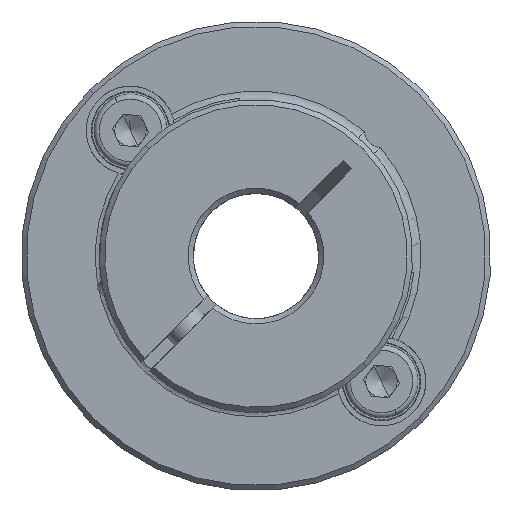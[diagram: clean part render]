
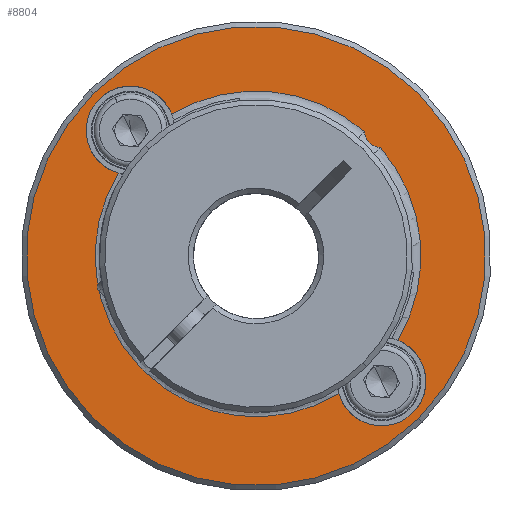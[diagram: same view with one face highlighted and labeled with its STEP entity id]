
A CAD part, front view. The second image highlights one B-rep face of the part: STEP entity #8804.
In plain terms, the highlighted planar face has unit normal (0, -1, 0).
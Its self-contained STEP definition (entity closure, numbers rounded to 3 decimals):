
#15 = EDGE_CURVE ( 'NONE', #9330, #3564, #2538, .T. ) ;
#17 = CARTESIAN_POINT ( 'NONE',  ( -13.688, 21.413, 33.299 ) ) ;
#128 = DIRECTION ( 'NONE',  ( 0., -1., 0. ) ) ;
#308 = VERTEX_POINT ( 'NONE', #4905 ) ;
#322 = AXIS2_PLACEMENT_3D ( 'NONE', #3807, #12410, #928 ) ;
#388 = CARTESIAN_POINT ( 'NONE',  ( -17.557, 21.413, 58.94 ) ) ;
#390 = EDGE_LOOP ( 'NONE', ( #4456, #3841 ) ) ;
#687 = CARTESIAN_POINT ( 'NONE',  ( -2.531, 21.413, 43.914 ) ) ;
#764 = VERTEX_POINT ( 'NONE', #11655 ) ;
#774 = DIRECTION ( 'NONE',  ( -0.707, 0., 0.707 ) ) ;
#845 = EDGE_CURVE ( 'NONE', #9582, #8864, #4003, .T. ) ;
#928 = DIRECTION ( 'NONE',  ( 0.145, 0., -0.989 ) ) ;
#1038 = ORIENTED_EDGE ( 'NONE', *, *, #2579, .T. ) ;
#1323 = DIRECTION ( 'NONE',  ( 0., 1., 0. ) ) ;
#1386 = DIRECTION ( 'NONE',  ( -0.707, 0., 0.707 ) ) ;
#1447 = DIRECTION ( 'NONE',  ( 0., 1., 0. ) ) ;
#1517 = EDGE_CURVE ( 'NONE', #2935, #9330, #2195, .T. ) ;
#1625 = AXIS2_PLACEMENT_3D ( 'NONE', #4604, #10335, #4488 ) ;
#1662 = EDGE_CURVE ( 'NONE', #7204, #9582, #4038, .T. ) ;
#1805 = ORIENTED_EDGE ( 'NONE', *, *, #2760, .T. ) ;
#1929 = VERTEX_POINT ( 'NONE', #4977 ) ;
#1963 = PLANE ( 'NONE',  #322 ) ;
#2054 = CARTESIAN_POINT ( 'NONE',  ( 9.49, 21.413, 31.893 ) ) ;
#2195 = CIRCLE ( 'NONE', #11992, 1.65 ) ;
#2380 = AXIS2_PLACEMENT_3D ( 'NONE', #2054, #1323, #7000 ) ;
#2538 = CIRCLE ( 'NONE', #1625, 15.8 ) ;
#2579 = EDGE_CURVE ( 'NONE', #3530, #308, #9350, .T. ) ;
#2623 = CIRCLE ( 'NONE', #10093, 15.4 ) ;
#2760 = EDGE_CURVE ( 'NONE', #764, #7204, #2623, .T. ) ;
#2935 = VERTEX_POINT ( 'NONE', #4938 ) ;
#3042 = CARTESIAN_POINT ( 'NONE',  ( -18.087, 21.413, 59.47 ) ) ;
#3128 = CIRCLE ( 'NONE', #5975, 22. ) ;
#3152 = ORIENTED_EDGE ( 'NONE', *, *, #1662, .T. ) ;
#3255 = DIRECTION ( 'NONE',  ( -0.707, 0., 0.707 ) ) ;
#3275 = EDGE_CURVE ( 'NONE', #7346, #1929, #10565, .T. ) ;
#3410 = AXIS2_PLACEMENT_3D ( 'NONE', #687, #7427, #8375 ) ;
#3479 = CARTESIAN_POINT ( 'NONE',  ( -13.464, 21.413, 33.162 ) ) ;
#3530 = VERTEX_POINT ( 'NONE', #388 ) ;
#3564 = VERTEX_POINT ( 'NONE', #10062 ) ;
#3624 = AXIS2_PLACEMENT_3D ( 'NONE', #5171, #8970, #3255 ) ;
#3807 = CARTESIAN_POINT ( 'NONE',  ( 9.49, 21.413, 55.935 ) ) ;
#3841 = ORIENTED_EDGE ( 'NONE', *, *, #3275, .T. ) ;
#4003 = CIRCLE ( 'NONE', #12209, 15.4 ) ;
#4038 = B_SPLINE_CURVE_WITH_KNOTS ( 'NONE', 3,
 ( #9125, #11923, #3479, #12008 ),
 .UNSPECIFIED., .F., .F.,
 ( 4, 4 ),
 ( 0., 1. ),
 .UNSPECIFIED. ) ;
#4264 = CIRCLE ( 'NONE', #7900, 4.25 ) ;
#4306 = CARTESIAN_POINT ( 'NONE',  ( -14.552, 21.413, 55.935 ) ) ;
#4362 = CARTESIAN_POINT ( 'NONE',  ( -15.728, 21.413, 51.851 ) ) ;
#4456 = ORIENTED_EDGE ( 'NONE', *, *, #6556, .T. ) ;
#4488 = DIRECTION ( 'NONE',  ( -0.707, 0., 0.707 ) ) ;
#4604 = CARTESIAN_POINT ( 'NONE',  ( -2.531, 21.413, 43.914 ) ) ;
#4896 = EDGE_CURVE ( 'NONE', #8864, #3530, #6037, .T. ) ;
#4904 = CARTESIAN_POINT ( 'NONE',  ( 12.495, 21.413, 28.888 ) ) ;
#4905 = CARTESIAN_POINT ( 'NONE',  ( -10.6, 21.413, 57.498 ) ) ;
#4938 = CARTESIAN_POINT ( 'NONE',  ( 7.843, 21.413, 55.831 ) ) ;
#4977 = CARTESIAN_POINT ( 'NONE',  ( 13.026, 21.413, 28.358 ) ) ;
#5018 = FACE_BOUND ( 'NONE', #5039, .T. ) ;
#5039 = EDGE_LOOP ( 'NONE', ( #10931, #10513, #6717, #5974, #1805, #3152, #11662, #8701, #1038, #11219 ) ) ;
#5042 = CIRCLE ( 'NONE', #2380, 4.25 ) ;
#5171 = CARTESIAN_POINT ( 'NONE',  ( -14.552, 21.413, 55.935 ) ) ;
#5224 = AXIS2_PLACEMENT_3D ( 'NONE', #10355, #10395, #774 ) ;
#5358 = DIRECTION ( 'NONE',  ( 0., 1., 0. ) ) ;
#5516 = CIRCLE ( 'NONE', #3410, 15.8 ) ;
#5960 = CARTESIAN_POINT ( 'NONE',  ( -2.531, 21.413, 43.914 ) ) ;
#5974 = ORIENTED_EDGE ( 'NONE', *, *, #7842, .T. ) ;
#5975 = AXIS2_PLACEMENT_3D ( 'NONE', #5960, #128, #10567 ) ;
#6037 = CIRCLE ( 'NONE', #3624, 4.25 ) ;
#6349 = EDGE_CURVE ( 'NONE', #308, #2935, #5516, .T. ) ;
#6556 = EDGE_CURVE ( 'NONE', #1929, #7346, #3128, .T. ) ;
#6717 = ORIENTED_EDGE ( 'NONE', *, *, #8576, .T. ) ;
#7000 = DIRECTION ( 'NONE',  ( -0.707, 0., 0.707 ) ) ;
#7154 = CARTESIAN_POINT ( 'NONE',  ( 9.386, 21.413, 54.288 ) ) ;
#7204 = VERTEX_POINT ( 'NONE', #9603 ) ;
#7246 = DIRECTION ( 'NONE',  ( -0.707, 0., 0.707 ) ) ;
#7282 = CARTESIAN_POINT ( 'NONE',  ( 9.49, 21.413, 31.893 ) ) ;
#7346 = VERTEX_POINT ( 'NONE', #3042 ) ;
#7364 = DIRECTION ( 'NONE',  ( -0.707, 0., 0.707 ) ) ;
#7427 = DIRECTION ( 'NONE',  ( 0., 1., 0. ) ) ;
#7776 = CARTESIAN_POINT ( 'NONE',  ( 9.49, 21.413, 55.935 ) ) ;
#7842 = EDGE_CURVE ( 'NONE', #9149, #764, #5042, .T. ) ;
#7900 = AXIS2_PLACEMENT_3D ( 'NONE', #7282, #5358, #7364 ) ;
#8375 = DIRECTION ( 'NONE',  ( -0.707, 0., 0.707 ) ) ;
#8576 = EDGE_CURVE ( 'NONE', #3564, #9149, #4264, .T. ) ;
#8701 = ORIENTED_EDGE ( 'NONE', *, *, #4896, .T. ) ;
#8707 = DIRECTION ( 'NONE',  ( 0., -1., 0. ) ) ;
#8741 = DIRECTION ( 'NONE',  ( 1., 0., 0. ) ) ;
#8804 = ADVANCED_FACE ( 'NONE', ( #5018, #9962 ), #1963, .T. ) ;
#8864 = VERTEX_POINT ( 'NONE', #4362 ) ;
#8970 = DIRECTION ( 'NONE',  ( 0., 1., 0. ) ) ;
#9125 = CARTESIAN_POINT ( 'NONE',  ( -13.145, 21.413, 32.757 ) ) ;
#9149 = VERTEX_POINT ( 'NONE', #4904 ) ;
#9330 = VERTEX_POINT ( 'NONE', #7154 ) ;
#9350 = CIRCLE ( 'NONE', #9851, 4.25 ) ;
#9582 = VERTEX_POINT ( 'NONE', #17 ) ;
#9603 = CARTESIAN_POINT ( 'NONE',  ( -13.145, 21.413, 32.757 ) ) ;
#9654 = DIRECTION ( 'NONE',  ( -0.707, 0., 0.707 ) ) ;
#9851 = AXIS2_PLACEMENT_3D ( 'NONE', #4306, #1447, #7246 ) ;
#9962 = FACE_OUTER_BOUND ( 'NONE', #390, .T. ) ;
#10062 = CARTESIAN_POINT ( 'NONE',  ( 11.054, 21.413, 35.845 ) ) ;
#10093 = AXIS2_PLACEMENT_3D ( 'NONE', #10455, #12347, #9654 ) ;
#10335 = DIRECTION ( 'NONE',  ( 0., 1., 0. ) ) ;
#10355 = CARTESIAN_POINT ( 'NONE',  ( -2.531, 21.413, 43.914 ) ) ;
#10395 = DIRECTION ( 'NONE',  ( 0., -1., 0. ) ) ;
#10455 = CARTESIAN_POINT ( 'NONE',  ( -2.531, 21.413, 43.914 ) ) ;
#10513 = ORIENTED_EDGE ( 'NONE', *, *, #15, .T. ) ;
#10565 = CIRCLE ( 'NONE', #5224, 22. ) ;
#10567 = DIRECTION ( 'NONE',  ( -0.707, 0., 0.707 ) ) ;
#10834 = DIRECTION ( 'NONE',  ( 0., 1., 0. ) ) ;
#10931 = ORIENTED_EDGE ( 'NONE', *, *, #1517, .T. ) ;
#10996 = CARTESIAN_POINT ( 'NONE',  ( -2.531, 21.413, 43.914 ) ) ;
#11219 = ORIENTED_EDGE ( 'NONE', *, *, #6349, .T. ) ;
#11655 = CARTESIAN_POINT ( 'NONE',  ( 5.406, 21.413, 30.717 ) ) ;
#11662 = ORIENTED_EDGE ( 'NONE', *, *, #845, .T. ) ;
#11923 = CARTESIAN_POINT ( 'NONE',  ( -13.283, 21.413, 32.981 ) ) ;
#11992 = AXIS2_PLACEMENT_3D ( 'NONE', #7776, #8707, #8741 ) ;
#12008 = CARTESIAN_POINT ( 'NONE',  ( -13.688, 21.413, 33.299 ) ) ;
#12209 = AXIS2_PLACEMENT_3D ( 'NONE', #10996, #10834, #1386 ) ;
#12347 = DIRECTION ( 'NONE',  ( 0., 1., 0. ) ) ;
#12410 = DIRECTION ( 'NONE',  ( 0., -1., 0. ) ) ;
